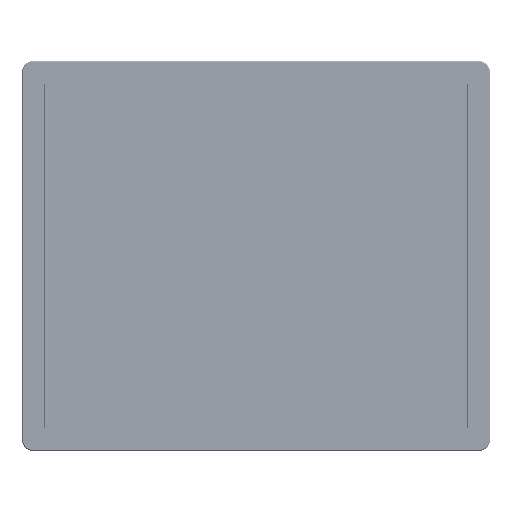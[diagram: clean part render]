
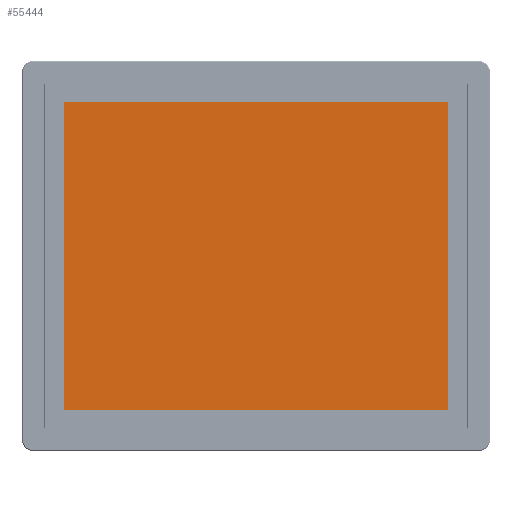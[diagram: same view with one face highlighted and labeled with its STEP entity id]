
A CAD part, top view. The second image highlights one B-rep face of the part: STEP entity #55444.
In plain terms, the highlighted planar face has unit normal (0, 0, 1).
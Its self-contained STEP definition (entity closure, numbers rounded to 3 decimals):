
#15125=FACE_OUTER_BOUND('',#81637,.T.);
#55444=ADVANCED_FACE('',(#15125),#66019,.T.);
#66019=PLANE('',#255464);
#81637=EDGE_LOOP('',(#119816,#119817,#119818,#119819));
#119816=ORIENTED_EDGE('',*,*,#208428,.T.);
#119817=ORIENTED_EDGE('',*,*,#208438,.T.);
#119818=ORIENTED_EDGE('',*,*,#208435,.T.);
#119819=ORIENTED_EDGE('',*,*,#208432,.T.);
#178761=VERTEX_POINT('',#421384);
#178762=VERTEX_POINT('',#421385);
#178765=VERTEX_POINT('',#421393);
#178767=VERTEX_POINT('',#421399);
#208428=EDGE_CURVE('',#178761,#178762,#237871,.T.);
#208432=EDGE_CURVE('',#178765,#178761,#237875,.T.);
#208435=EDGE_CURVE('',#178767,#178765,#237878,.T.);
#208438=EDGE_CURVE('',#178762,#178767,#237881,.T.);
#237871=LINE('',#421383,#244528);
#237875=LINE('',#421392,#244532);
#237878=LINE('',#421398,#244535);
#237881=LINE('',#421404,#244538);
#244528=VECTOR('',#284065,1.);
#244532=VECTOR('',#284071,1.);
#244535=VECTOR('',#284076,1.);
#244538=VECTOR('',#284081,1.);
#255464=AXIS2_PLACEMENT_3D('',#421408,#284087,#284088);
#284065=DIRECTION('',(0.,-1.,0.));
#284071=DIRECTION('',(-1.,0.,0.));
#284076=DIRECTION('',(0.,1.,0.));
#284081=DIRECTION('',(1.,0.,0.));
#284087=DIRECTION('',(0.,0.,1.));
#284088=DIRECTION('',(1.,0.,0.));
#421383=CARTESIAN_POINT('',(-208.353,148.698,11.25));
#421384=CARTESIAN_POINT('',(-208.353,148.698,11.25));
#421385=CARTESIAN_POINT('',(-208.353,-123.642,11.25));
#421392=CARTESIAN_POINT('',(-208.353,148.698,11.25));
#421393=CARTESIAN_POINT('',(131.567,148.698,11.25));
#421398=CARTESIAN_POINT('',(131.567,148.698,11.25));
#421399=CARTESIAN_POINT('',(131.567,-123.642,11.25));
#421404=CARTESIAN_POINT('',(-208.353,-123.642,11.25));
#421408=CARTESIAN_POINT('',(-38.393,168.028,11.25));
